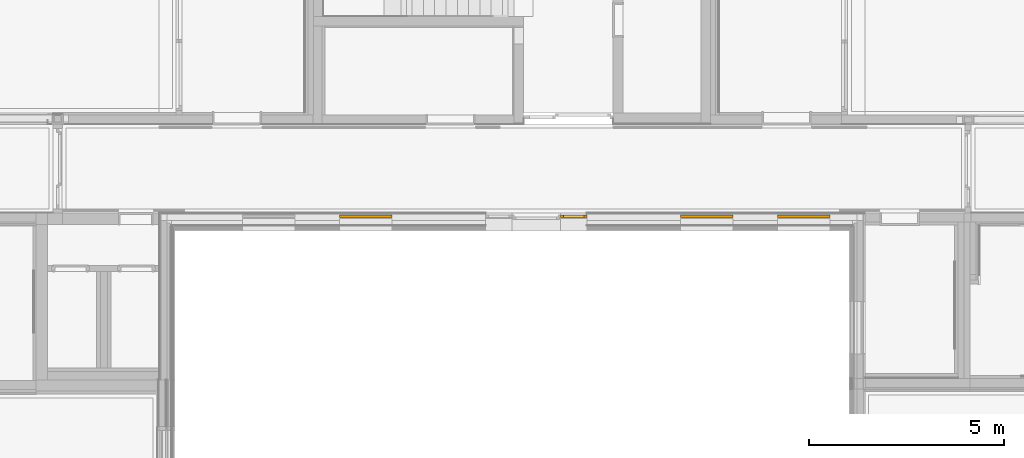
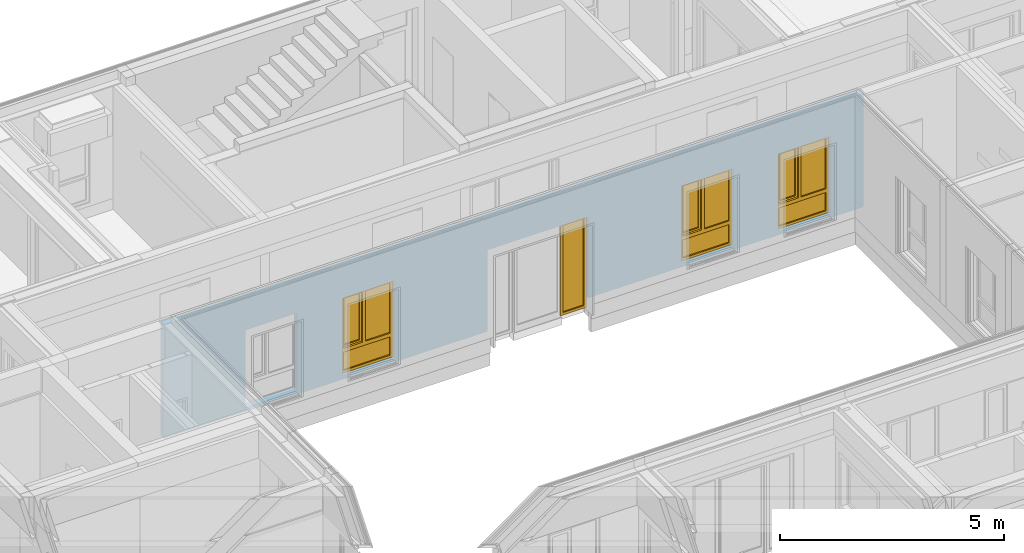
# One storey, part 106 of 207: 4 windows, 7 openings, plus 1 element that does not belong to this part.
"""IFC4 building model written with IfcOpenShell, lengths in metres."""

from ifc_helpers import new_model, entity, si_unit, converted_unit, derived_unit, frame, frame_2d, origin, origin_with_axes, place, context, subcontext, project, spatial, polyline, rectangle, outline, extrude, closed_shell, open_shell, surface_model, source, transform, mapped, material, element, fill, save


model = new_model("IFC4")

# Units and contexts
model_context = context("Model", 3, precision=1e-05, world=origin())
body_context = subcontext(model_context, "Body", "Model", "MODEL_VIEW")
ifc_project = project(units=[si_unit("LENGTHUNIT", "METRE"), si_unit("AREAUNIT", "SQUARE_METRE"), si_unit("VOLUMEUNIT", "CUBIC_METRE"), si_unit("MASSUNIT", "GRAM", prefix="KILO"), converted_unit("PLANEANGLEUNIT", "DEGREE", entity("IfcPlaneAngleMeasure", 0.0174532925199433), si_unit("PLANEANGLEUNIT", "RADIAN"), dimensions=[0, 0, 0, 0, 0, 0, 0]), derived_unit("THERMALTRANSMITTANCEUNIT", [(si_unit("POWERUNIT", "WATT"), 1), (si_unit("THERMODYNAMICTEMPERATUREUNIT", "KELVIN"), -1), (si_unit("LENGTHUNIT", "METRE"), -2)]), derived_unit("VOLUMETRICFLOWRATEUNIT", [(si_unit("LENGTHUNIT", "METRE"), 3), (converted_unit("TIMEUNIT", "hour", entity("IfcTimeMeasure", 3600.0), si_unit("TIMEUNIT", "SECOND"), dimensions=[0, 0, 1, 0, 0, 0, 0]), -1), (si_unit("LENGTHUNIT", "METRE"), -1)])], contexts=[model_context])

# Site, building, storey
site_placement = place(None, origin())
site = spatial("IfcSite", under=ifc_project, at=site_placement, Name="Psychiatrie Neubau Wunstorf", CompositionType="ELEMENT")
building_placement = place(site_placement, origin())
building = spatial("IfcBuilding", under=site, at=building_placement, Name="Neubau H2 Stationsgebäude", CompositionType="ELEMENT")
storey_placement = place(building_placement, frame((0.0, 0.0, -0.2)))
storey = spatial("IfcBuildingStorey", under=building, at=storey_placement, Name="H2 Ebene 0", CompositionType="ELEMENT", Elevation=-0.2)

# Wall, openings, windows
ifc_material = material(Name="WA-HD")
wall_placement = place(storey_placement, frame((62.0250000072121, 20.5499980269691, 0.5), z_axis=(0.0, 0.0, 1.0), x_axis=(-1.0, 8.06200289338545e-16, 0.0)))
wall = element("IfcWall", 1, at=wall_placement, inside=storey, material=ifc_material, context=body_context, shape_type="SweptSolid", body=[
    extrude(rectangle(XDim=18.0500000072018, YDim=0.16, at=frame_2d((9.02500000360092, 0.08), x_axis=(1.0, 0.0))), origin_with_axes(), (0.0, 0.0, 1.0), 3.1),
])
opening_1_placement = place(wall_placement, frame((7.77738818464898, 0.159999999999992, -0.3), z_axis=(0.0, -1.0, 0.0), x_axis=(0.0, 0.0, 1.0)))
opening_1 = element("IfcOpeningElement", 2, at=opening_1_placement, cuts=wall, Name="Fensteröffnung", ObjectType="Opening", context=body_context, shape_type="SweptSolid", body=[
    extrude(outline(polyline([(2.52, 0.675), (2.52, 0.0), (0.0, 0.0), (0.0, 0.675), (2.52, 0.675)])), origin_with_axes(), (0.0, 0.0, 1.0), 0.159999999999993),
])
opening_2_placement = place(wall_placement, frame((2.202388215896, 0.159999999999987, 0.1), z_axis=(0.0, -1.0, 0.0), x_axis=(0.0, 0.0, 1.0)))
opening_2 = element("IfcOpeningElement", 3, at=opening_2_placement, cuts=wall, Name="Fensteröffnung", ObjectType="Opening", context=body_context, shape_type="SweptSolid", body=[
    extrude(outline(polyline([(2.12, 1.35), (2.12, 0.0), (0.0, 0.0), (0.0, 1.35), (2.12, 1.35)])), origin_with_axes(), (0.0, 0.0, 1.0), 0.159999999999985),
])
opening_3_placement = place(wall_placement, frame((4.702388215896, 0.159999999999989, 0.1), z_axis=(0.0, -1.0, 0.0), x_axis=(0.0, 0.0, 1.0)))
opening_3 = element("IfcOpeningElement", 4, at=opening_3_placement, cuts=wall, Name="Fensteröffnung", ObjectType="Opening", context=body_context, shape_type="SweptSolid", body=[
    extrude(outline(polyline([(2.12, 1.35), (2.12, 0.0), (0.0, 0.0), (0.0, 1.35), (2.12, 1.35)])), origin_with_axes(), (0.0, 0.0, 1.0), 0.159999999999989),
])
opening_4_placement = place(wall_placement, frame((13.452388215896, 0.159999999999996, 0.1), z_axis=(0.0, -1.0, 0.0), x_axis=(0.0, 0.0, 1.0)))
opening_4 = element("IfcOpeningElement", 5, at=opening_4_placement, cuts=wall, Name="Fensteröffnung", ObjectType="Opening", context=body_context, shape_type="SweptSolid", body=[
    extrude(outline(polyline([(2.12, 1.35), (2.12, 0.0), (0.0, 0.0), (0.0, 1.35), (2.12, 1.35)])), origin_with_axes(), (0.0, 0.0, 1.0), 0.159999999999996),
])
opening_5_placement = place(wall_placement, frame((15.9523882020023, 0.159999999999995, 0.1), z_axis=(0.0, -1.0, 0.0), x_axis=(0.0, 0.0, 1.0)))
element("IfcOpeningElement", 6, at=opening_5_placement, cuts=wall, Name="Fensteröffnung", ObjectType="Opening", context=body_context, shape_type="SweptSolid", body=[
    extrude(outline(polyline([(2.12, 1.35), (2.12, 0.0), (0.0, 0.0), (0.0, 1.35), (2.12, 1.35)])), origin_with_axes(), (0.0, 0.0, 1.0), 0.16),
])
opening_6_placement = place(wall_placement, frame((9.027388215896, 0.159999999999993, -0.5), z_axis=(0.0, -1.0, 0.0), x_axis=(0.0, 0.0, 1.0)))
element("IfcOpeningElement", 7, at=opening_6_placement, cuts=wall, Name="Türöffnung", ObjectType="Opening", context=body_context, shape_type="SweptSolid", body=[
    extrude(outline(polyline([(2.72, 1.25), (2.72, 0.0), (0.0, 0.0), (0.0, 1.25), (2.72, 1.25)])), origin_with_axes(), (0.0, 0.0, 1.0), 0.159999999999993),
])
opening_7_placement = place(wall_placement, frame((9.702388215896, 0.159999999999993, -0.3), z_axis=(0.0, -1.0, 0.0), x_axis=(0.0, 0.0, 1.0)))
element("IfcOpeningElement", 8, at=opening_7_placement, cuts=wall, Name="Fensteröffnung", ObjectType="Opening", context=body_context, shape_type="SweptSolid", body=[
    extrude(outline(polyline([(2.52, 0.675), (2.52, 0.0), (0.0, 0.0), (0.0, 0.675), (2.52, 0.675)])), origin_with_axes(), (0.0, 0.0, 1.0), 0.159999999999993),
])
shared_shape_1 = source(origin_with_axes(), body_context, "Body", "SurfaceModel", [
    surface_model("IfcShellBasedSurfaceModel", [(0.675, 0.0, 2.52), (0.675, 0.0, 0.0), (0.605, 0.0, 0.0), (0.605, 0.0, 2.52), (0.675, 0.07, 0.0), (0.675, 0.07, 2.52), (0.605, 0.07, 2.52), (0.605, 0.07, 0.0)], [closed_shell([[[0, 1, 2, 3]], [[4, 5, 6, 7]], [[1, 0, 5, 4]], [[2, 1, 4, 7]], [[3, 2, 7, 6]], [[0, 3, 6, 5]]], orient=[[False], [False], [False], [False], [False], [False]])]),
    surface_model("IfcShellBasedSurfaceModel", [(0.07, 0.0, 2.52), (0.07, 0.0, 0.0), (0.0, 0.0, 0.0), (0.0, 0.0, 2.52), (0.07, 0.07, 0.0), (0.07, 0.07, 2.52), (0.0, 0.07, 2.52), (0.0, 0.07, 0.0)], [closed_shell([[[0, 1, 2, 3]], [[4, 5, 6, 7]], [[1, 0, 5, 4]], [[2, 1, 4, 7]], [[3, 2, 7, 6]], [[0, 3, 6, 5]]], orient=[[False], [False], [False], [False], [False], [False]])]),
    surface_model("IfcShellBasedSurfaceModel", [(0.605, 0.0, 0.07), (0.605, 0.0, 0.0), (0.07, 0.0, 0.0), (0.07, 0.0, 0.07), (0.605, 0.07, 0.0), (0.605, 0.07, 0.07), (0.07, 0.07, 0.07), (0.07, 0.07, 0.0)], [closed_shell([[[0, 1, 2, 3]], [[4, 5, 6, 7]], [[1, 0, 5, 4]], [[2, 1, 4, 7]], [[3, 2, 7, 6]], [[0, 3, 6, 5]]], orient=[[False], [False], [False], [False], [False], [False]])]),
    surface_model("IfcShellBasedSurfaceModel", [(0.605, 0.0, 2.52), (0.605, 0.0, 2.45), (0.07, 0.0, 2.45), (0.07, 0.0, 2.52), (0.605, 0.07, 2.45), (0.605, 0.07, 2.52), (0.07, 0.07, 2.52), (0.07, 0.07, 2.45)], [closed_shell([[[0, 1, 2, 3]], [[4, 5, 6, 7]], [[1, 0, 5, 4]], [[2, 1, 4, 7]], [[3, 2, 7, 6]], [[0, 3, 6, 5]]], orient=[[False], [False], [False], [False], [False], [False]])]),
    surface_model("IfcShellBasedSurfaceModel", [(0.605, 0.035, 0.07), (0.07, 0.035, 0.07), (0.07, 0.035, 2.45), (0.605, 0.035, 2.45)], [open_shell([[[0, 1, 2, 3]]], orient=[[False]])]),
])
window_1_placement = place(opening_1_placement, frame((0.0, 0.0, 0.0759999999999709), z_axis=(1.0, 0.0, 0.0), x_axis=(0.0, 1.0, 8.06200289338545e-16)))
window_1 = element("IfcWindow", 9, at=window_1_placement, inside=storey, Name="Fenster", OverallHeight=2.52, OverallWidth=0.675, PartitioningType="USERDEFINED", PredefinedType="WINDOW", context=body_context, shape_type="MappedRepresentation", body=[
    mapped(shared_shape_1, transform((0.0, 0.0, 0.0), x_axis=(1.0, 0.0, 0.0), y_axis=(0.0, 1.0, 0.0), z_axis=(0.0, 0.0, 1.0), scale=1.0)),
])
fill(opening_1, window_1)
shared_shape_2 = source(origin_with_axes(), body_context, "Body", "SurfaceModel", [
    surface_model("IfcShellBasedSurfaceModel", [(1.35, -0.000199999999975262, 2.12), (1.35, -0.000199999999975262, 0.0), (1.28, -0.000199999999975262, 0.0), (1.28, -0.000199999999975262, 2.12), (1.35, 0.0698000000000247, 0.0), (1.35, 0.0698000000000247, 2.12), (1.28, 0.0698000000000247, 2.12), (1.28, 0.0698000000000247, 0.0)], [closed_shell([[[0, 1, 2, 3]], [[4, 5, 6, 7]], [[1, 0, 5, 4]], [[2, 1, 4, 7]], [[3, 2, 7, 6]], [[0, 3, 6, 5]]], orient=[[False], [False], [False], [False], [False], [False]])]),
    surface_model("IfcShellBasedSurfaceModel", [(0.07, -0.000199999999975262, 2.12), (0.07, -0.000199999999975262, 0.0), (0.0, -0.000199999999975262, 0.0), (0.0, -0.000199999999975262, 2.12), (0.07, 0.0698000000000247, 0.0), (0.07, 0.0698000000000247, 2.12), (0.0, 0.0698000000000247, 2.12), (0.0, 0.0698000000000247, 0.0)], [closed_shell([[[0, 1, 2, 3]], [[4, 5, 6, 7]], [[1, 0, 5, 4]], [[2, 1, 4, 7]], [[3, 2, 7, 6]], [[0, 3, 6, 5]]], orient=[[False], [False], [False], [False], [False], [False]])]),
    surface_model("IfcShellBasedSurfaceModel", [(1.28, -0.000199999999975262, 0.07), (1.28, -0.000199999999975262, 0.0), (0.07, -0.000199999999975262, 0.0), (0.07, -0.000199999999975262, 0.07), (1.28, 0.0698000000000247, 0.0), (1.28, 0.0698000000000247, 0.07), (0.07, 0.0698000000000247, 0.07), (0.07, 0.0698000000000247, 0.0)], [closed_shell([[[0, 1, 2, 3]], [[4, 5, 6, 7]], [[1, 0, 5, 4]], [[2, 1, 4, 7]], [[3, 2, 7, 6]], [[0, 3, 6, 5]]], orient=[[False], [False], [False], [False], [False], [False]])]),
    surface_model("IfcShellBasedSurfaceModel", [(1.28, -0.000199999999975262, 2.12), (1.28, -0.000199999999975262, 2.05), (0.07, -0.000199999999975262, 2.05), (0.07, -0.000199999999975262, 2.12), (1.28, 0.0698000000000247, 2.05), (1.28, 0.0698000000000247, 2.12), (0.07, 0.0698000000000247, 2.12), (0.07, 0.0698000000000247, 2.05)], [closed_shell([[[0, 1, 2, 3]], [[4, 5, 6, 7]], [[1, 0, 5, 4]], [[2, 1, 4, 7]], [[3, 2, 7, 6]], [[0, 3, 6, 5]]], orient=[[False], [False], [False], [False], [False], [False]])]),
    surface_model("IfcShellBasedSurfaceModel", [(1.28, -0.000199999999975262, 0.67), (1.28, -0.000199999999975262, 0.57), (0.07, -0.000199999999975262, 0.57), (0.07, -0.000199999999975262, 0.67), (1.28, 0.0698000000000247, 0.57), (1.28, 0.0698000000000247, 0.67), (0.07, 0.0698000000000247, 0.67), (0.07, 0.0698000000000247, 0.57)], [closed_shell([[[0, 1, 2, 3]], [[4, 5, 6, 7]], [[1, 0, 5, 4]], [[2, 1, 4, 7]], [[3, 2, 7, 6]], [[0, 3, 6, 5]]], orient=[[False], [False], [False], [False], [False], [False]])]),
    surface_model("IfcShellBasedSurfaceModel", [(1.28, 0.0348000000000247, 0.07), (0.07, 0.0348000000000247, 0.07), (0.07, 0.0348000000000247, 0.57), (1.28, 0.0348000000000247, 0.57)], [open_shell([[[0, 1, 2, 3]]], orient=[[False]])]),
    surface_model("IfcShellBasedSurfaceModel", [(0.78, -0.000199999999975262, 2.05), (0.78, -0.000199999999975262, 0.67), (0.71, -0.000199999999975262, 0.67), (0.71, -0.000199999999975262, 2.05), (0.78, 0.0698000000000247, 0.67), (0.78, 0.0698000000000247, 2.05), (0.71, 0.0698000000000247, 2.05), (0.71, 0.0698000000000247, 0.67)], [closed_shell([[[0, 1, 2, 3]], [[4, 5, 6, 7]], [[1, 0, 5, 4]], [[2, 1, 4, 7]], [[3, 2, 7, 6]], [[0, 3, 6, 5]]], orient=[[False], [False], [False], [False], [False], [False]])]),
    surface_model("IfcShellBasedSurfaceModel", [(1.3, -0.0501999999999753, 2.07), (1.3, -0.0501999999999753, 0.65), (1.23, -0.0501999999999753, 0.65), (1.23, -0.0501999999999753, 2.07), (1.3, 0.0198000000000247, 0.65), (1.3, 0.0198000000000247, 2.07), (1.23, 0.0198000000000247, 2.07), (1.23, 0.0198000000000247, 0.65)], [closed_shell([[[0, 1, 2, 3]], [[4, 5, 6, 7]], [[1, 0, 5, 4]], [[2, 1, 4, 7]], [[3, 2, 7, 6]], [[0, 3, 6, 5]]], orient=[[False], [False], [False], [False], [False], [False]])]),
    surface_model("IfcShellBasedSurfaceModel", [(0.83, -0.0501999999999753, 2.07), (0.83, -0.0501999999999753, 0.65), (0.76, -0.0501999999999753, 0.65), (0.76, -0.0501999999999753, 2.07), (0.83, 0.0198000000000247, 0.65), (0.83, 0.0198000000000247, 2.07), (0.76, 0.0198000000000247, 2.07), (0.76, 0.0198000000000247, 0.65)], [closed_shell([[[0, 1, 2, 3]], [[4, 5, 6, 7]], [[1, 0, 5, 4]], [[2, 1, 4, 7]], [[3, 2, 7, 6]], [[0, 3, 6, 5]]], orient=[[False], [False], [False], [False], [False], [False]])]),
    surface_model("IfcShellBasedSurfaceModel", [(1.23, -0.0501999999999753, 0.72), (1.23, -0.0501999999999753, 0.65), (0.83, -0.0501999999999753, 0.65), (0.83, -0.0501999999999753, 0.72), (1.23, 0.0198000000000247, 0.65), (1.23, 0.0198000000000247, 0.72), (0.83, 0.0198000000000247, 0.72), (0.83, 0.0198000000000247, 0.65)], [closed_shell([[[0, 1, 2, 3]], [[4, 5, 6, 7]], [[1, 0, 5, 4]], [[2, 1, 4, 7]], [[3, 2, 7, 6]], [[0, 3, 6, 5]]], orient=[[False], [False], [False], [False], [False], [False]])]),
    surface_model("IfcShellBasedSurfaceModel", [(1.23, -0.0501999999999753, 2.07), (1.23, -0.0501999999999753, 2.0), (0.83, -0.0501999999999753, 2.0), (0.83, -0.0501999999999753, 2.07), (1.23, 0.0198000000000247, 2.0), (1.23, 0.0198000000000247, 2.07), (0.83, 0.0198000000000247, 2.07), (0.83, 0.0198000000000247, 2.0)], [closed_shell([[[0, 1, 2, 3]], [[4, 5, 6, 7]], [[1, 0, 5, 4]], [[2, 1, 4, 7]], [[3, 2, 7, 6]], [[0, 3, 6, 5]]], orient=[[False], [False], [False], [False], [False], [False]])]),
    surface_model("IfcShellBasedSurfaceModel", [(0.71, 0.0348000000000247, 0.67), (0.07, 0.0348000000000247, 0.67), (0.07, 0.0348000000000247, 2.05), (0.71, 0.0348000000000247, 2.05)], [open_shell([[[0, 1, 2, 3]]], orient=[[False]])]),
    surface_model("IfcShellBasedSurfaceModel", [(1.23, -0.0151999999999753, 0.72), (0.83, -0.0151999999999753, 0.72), (0.83, -0.0151999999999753, 2.0), (1.23, -0.0151999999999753, 2.0)], [open_shell([[[0, 1, 2, 3]]], orient=[[False]])]),
])
window_2_placement = place(opening_2_placement, frame((0.0, 1.35, 0.146), z_axis=(1.0, 0.0, 0.0), x_axis=(0.0, -1.0, -8.06200289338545e-16)))
window_2 = element("IfcWindow", 10, at=window_2_placement, inside=storey, Name="Fenster", OverallHeight=2.12, OverallWidth=1.35, PartitioningType="USERDEFINED", PredefinedType="WINDOW", context=body_context, shape_type="MappedRepresentation", body=[
    mapped(shared_shape_2, transform((0.0, 0.0, 0.0), x_axis=(1.0, 0.0, 0.0), y_axis=(0.0, 1.0, 0.0), z_axis=(0.0, 0.0, 1.0), scale=1.0)),
])
fill(opening_2, window_2)
shared_shape_3 = source(origin_with_axes(), body_context, "Body", "SurfaceModel", [
    surface_model("IfcShellBasedSurfaceModel", [(1.35, -0.000199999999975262, 2.12), (1.35, -0.000199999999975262, 0.0), (1.28, -0.000199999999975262, 0.0), (1.28, -0.000199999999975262, 2.12), (1.35, 0.0698000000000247, 0.0), (1.35, 0.0698000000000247, 2.12), (1.28, 0.0698000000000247, 2.12), (1.28, 0.0698000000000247, 0.0)], [closed_shell([[[0, 1, 2, 3]], [[4, 5, 6, 7]], [[1, 0, 5, 4]], [[2, 1, 4, 7]], [[3, 2, 7, 6]], [[0, 3, 6, 5]]], orient=[[False], [False], [False], [False], [False], [False]])]),
    surface_model("IfcShellBasedSurfaceModel", [(0.07, -0.000199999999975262, 2.12), (0.07, -0.000199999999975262, 0.0), (0.0, -0.000199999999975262, 0.0), (0.0, -0.000199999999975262, 2.12), (0.07, 0.0698000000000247, 0.0), (0.07, 0.0698000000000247, 2.12), (0.0, 0.0698000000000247, 2.12), (0.0, 0.0698000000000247, 0.0)], [closed_shell([[[0, 1, 2, 3]], [[4, 5, 6, 7]], [[1, 0, 5, 4]], [[2, 1, 4, 7]], [[3, 2, 7, 6]], [[0, 3, 6, 5]]], orient=[[False], [False], [False], [False], [False], [False]])]),
    surface_model("IfcShellBasedSurfaceModel", [(1.28, -0.000199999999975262, 0.07), (1.28, -0.000199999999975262, 0.0), (0.07, -0.000199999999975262, 0.0), (0.07, -0.000199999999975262, 0.07), (1.28, 0.0698000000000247, 0.0), (1.28, 0.0698000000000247, 0.07), (0.07, 0.0698000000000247, 0.07), (0.07, 0.0698000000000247, 0.0)], [closed_shell([[[0, 1, 2, 3]], [[4, 5, 6, 7]], [[1, 0, 5, 4]], [[2, 1, 4, 7]], [[3, 2, 7, 6]], [[0, 3, 6, 5]]], orient=[[False], [False], [False], [False], [False], [False]])]),
    surface_model("IfcShellBasedSurfaceModel", [(1.28, -0.000199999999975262, 2.12), (1.28, -0.000199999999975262, 2.05), (0.07, -0.000199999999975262, 2.05), (0.07, -0.000199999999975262, 2.12), (1.28, 0.0698000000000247, 2.05), (1.28, 0.0698000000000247, 2.12), (0.07, 0.0698000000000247, 2.12), (0.07, 0.0698000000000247, 2.05)], [closed_shell([[[0, 1, 2, 3]], [[4, 5, 6, 7]], [[1, 0, 5, 4]], [[2, 1, 4, 7]], [[3, 2, 7, 6]], [[0, 3, 6, 5]]], orient=[[False], [False], [False], [False], [False], [False]])]),
    surface_model("IfcShellBasedSurfaceModel", [(1.28, -0.000199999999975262, 0.67), (1.28, -0.000199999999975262, 0.57), (0.07, -0.000199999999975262, 0.57), (0.07, -0.000199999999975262, 0.67), (1.28, 0.0698000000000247, 0.57), (1.28, 0.0698000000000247, 0.67), (0.07, 0.0698000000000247, 0.67), (0.07, 0.0698000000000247, 0.57)], [closed_shell([[[0, 1, 2, 3]], [[4, 5, 6, 7]], [[1, 0, 5, 4]], [[2, 1, 4, 7]], [[3, 2, 7, 6]], [[0, 3, 6, 5]]], orient=[[False], [False], [False], [False], [False], [False]])]),
    surface_model("IfcShellBasedSurfaceModel", [(1.28, 0.0348000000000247, 0.07), (0.07, 0.0348000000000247, 0.07), (0.07, 0.0348000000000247, 0.57), (1.28, 0.0348000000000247, 0.57)], [open_shell([[[0, 1, 2, 3]]], orient=[[False]])]),
    surface_model("IfcShellBasedSurfaceModel", [(0.78, -0.000199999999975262, 2.05), (0.78, -0.000199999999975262, 0.67), (0.71, -0.000199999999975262, 0.67), (0.71, -0.000199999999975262, 2.05), (0.78, 0.0698000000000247, 0.67), (0.78, 0.0698000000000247, 2.05), (0.71, 0.0698000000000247, 2.05), (0.71, 0.0698000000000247, 0.67)], [closed_shell([[[0, 1, 2, 3]], [[4, 5, 6, 7]], [[1, 0, 5, 4]], [[2, 1, 4, 7]], [[3, 2, 7, 6]], [[0, 3, 6, 5]]], orient=[[False], [False], [False], [False], [False], [False]])]),
    surface_model("IfcShellBasedSurfaceModel", [(1.3, -0.0501999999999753, 2.07), (1.3, -0.0501999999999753, 0.65), (1.23, -0.0501999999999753, 0.65), (1.23, -0.0501999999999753, 2.07), (1.3, 0.0198000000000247, 0.65), (1.3, 0.0198000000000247, 2.07), (1.23, 0.0198000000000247, 2.07), (1.23, 0.0198000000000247, 0.65)], [closed_shell([[[0, 1, 2, 3]], [[4, 5, 6, 7]], [[1, 0, 5, 4]], [[2, 1, 4, 7]], [[3, 2, 7, 6]], [[0, 3, 6, 5]]], orient=[[False], [False], [False], [False], [False], [False]])]),
    surface_model("IfcShellBasedSurfaceModel", [(0.83, -0.0501999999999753, 2.07), (0.83, -0.0501999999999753, 0.65), (0.76, -0.0501999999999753, 0.65), (0.76, -0.0501999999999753, 2.07), (0.83, 0.0198000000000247, 0.65), (0.83, 0.0198000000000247, 2.07), (0.76, 0.0198000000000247, 2.07), (0.76, 0.0198000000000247, 0.65)], [closed_shell([[[0, 1, 2, 3]], [[4, 5, 6, 7]], [[1, 0, 5, 4]], [[2, 1, 4, 7]], [[3, 2, 7, 6]], [[0, 3, 6, 5]]], orient=[[False], [False], [False], [False], [False], [False]])]),
    surface_model("IfcShellBasedSurfaceModel", [(1.23, -0.0501999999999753, 0.72), (1.23, -0.0501999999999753, 0.65), (0.83, -0.0501999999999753, 0.65), (0.83, -0.0501999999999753, 0.72), (1.23, 0.0198000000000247, 0.65), (1.23, 0.0198000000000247, 0.72), (0.83, 0.0198000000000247, 0.72), (0.83, 0.0198000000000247, 0.65)], [closed_shell([[[0, 1, 2, 3]], [[4, 5, 6, 7]], [[1, 0, 5, 4]], [[2, 1, 4, 7]], [[3, 2, 7, 6]], [[0, 3, 6, 5]]], orient=[[False], [False], [False], [False], [False], [False]])]),
    surface_model("IfcShellBasedSurfaceModel", [(1.23, -0.0501999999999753, 2.07), (1.23, -0.0501999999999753, 2.0), (0.83, -0.0501999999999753, 2.0), (0.83, -0.0501999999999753, 2.07), (1.23, 0.0198000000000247, 2.0), (1.23, 0.0198000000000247, 2.07), (0.83, 0.0198000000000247, 2.07), (0.83, 0.0198000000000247, 2.0)], [closed_shell([[[0, 1, 2, 3]], [[4, 5, 6, 7]], [[1, 0, 5, 4]], [[2, 1, 4, 7]], [[3, 2, 7, 6]], [[0, 3, 6, 5]]], orient=[[False], [False], [False], [False], [False], [False]])]),
    surface_model("IfcShellBasedSurfaceModel", [(0.71, 0.0348000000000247, 0.67), (0.07, 0.0348000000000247, 0.67), (0.07, 0.0348000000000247, 2.05), (0.71, 0.0348000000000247, 2.05)], [open_shell([[[0, 1, 2, 3]]], orient=[[False]])]),
    surface_model("IfcShellBasedSurfaceModel", [(1.23, -0.0151999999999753, 0.72), (0.83, -0.0151999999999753, 0.72), (0.83, -0.0151999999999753, 2.0), (1.23, -0.0151999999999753, 2.0)], [open_shell([[[0, 1, 2, 3]]], orient=[[False]])]),
])
window_3_placement = place(opening_3_placement, frame((0.0, 1.35, 0.145999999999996), z_axis=(1.0, 0.0, 0.0), x_axis=(0.0, -1.0, -8.06200289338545e-16)))
window_3 = element("IfcWindow", 11, at=window_3_placement, inside=storey, Name="Fenster", OverallHeight=2.12, OverallWidth=1.35, PartitioningType="USERDEFINED", PredefinedType="WINDOW", context=body_context, shape_type="MappedRepresentation", body=[
    mapped(shared_shape_3, transform((0.0, 0.0, 0.0), x_axis=(1.0, 0.0, 0.0), y_axis=(0.0, 1.0, 0.0), z_axis=(0.0, 0.0, 1.0), scale=1.0)),
])
fill(opening_3, window_3)
shared_shape_4 = source(origin_with_axes(), body_context, "Body", "SurfaceModel", [
    surface_model("IfcShellBasedSurfaceModel", [(1.35, -0.000199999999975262, 2.12), (1.35, -0.000199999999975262, 0.0), (1.28, -0.000199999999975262, 0.0), (1.28, -0.000199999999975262, 2.12), (1.35, 0.0698000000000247, 0.0), (1.35, 0.0698000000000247, 2.12), (1.28, 0.0698000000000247, 2.12), (1.28, 0.0698000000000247, 0.0)], [closed_shell([[[0, 1, 2, 3]], [[4, 5, 6, 7]], [[1, 0, 5, 4]], [[2, 1, 4, 7]], [[3, 2, 7, 6]], [[0, 3, 6, 5]]], orient=[[False], [False], [False], [False], [False], [False]])]),
    surface_model("IfcShellBasedSurfaceModel", [(0.07, -0.000199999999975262, 2.12), (0.07, -0.000199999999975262, 0.0), (0.0, -0.000199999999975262, 0.0), (0.0, -0.000199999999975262, 2.12), (0.07, 0.0698000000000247, 0.0), (0.07, 0.0698000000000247, 2.12), (0.0, 0.0698000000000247, 2.12), (0.0, 0.0698000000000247, 0.0)], [closed_shell([[[0, 1, 2, 3]], [[4, 5, 6, 7]], [[1, 0, 5, 4]], [[2, 1, 4, 7]], [[3, 2, 7, 6]], [[0, 3, 6, 5]]], orient=[[False], [False], [False], [False], [False], [False]])]),
    surface_model("IfcShellBasedSurfaceModel", [(1.28, -0.000199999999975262, 0.07), (1.28, -0.000199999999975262, 0.0), (0.07, -0.000199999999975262, 0.0), (0.07, -0.000199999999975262, 0.07), (1.28, 0.0698000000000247, 0.0), (1.28, 0.0698000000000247, 0.07), (0.07, 0.0698000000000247, 0.07), (0.07, 0.0698000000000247, 0.0)], [closed_shell([[[0, 1, 2, 3]], [[4, 5, 6, 7]], [[1, 0, 5, 4]], [[2, 1, 4, 7]], [[3, 2, 7, 6]], [[0, 3, 6, 5]]], orient=[[False], [False], [False], [False], [False], [False]])]),
    surface_model("IfcShellBasedSurfaceModel", [(1.28, -0.000199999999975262, 2.12), (1.28, -0.000199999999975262, 2.05), (0.07, -0.000199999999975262, 2.05), (0.07, -0.000199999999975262, 2.12), (1.28, 0.0698000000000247, 2.05), (1.28, 0.0698000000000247, 2.12), (0.07, 0.0698000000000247, 2.12), (0.07, 0.0698000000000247, 2.05)], [closed_shell([[[0, 1, 2, 3]], [[4, 5, 6, 7]], [[1, 0, 5, 4]], [[2, 1, 4, 7]], [[3, 2, 7, 6]], [[0, 3, 6, 5]]], orient=[[False], [False], [False], [False], [False], [False]])]),
    surface_model("IfcShellBasedSurfaceModel", [(1.28, -0.000199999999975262, 0.67), (1.28, -0.000199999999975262, 0.57), (0.07, -0.000199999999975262, 0.57), (0.07, -0.000199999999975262, 0.67), (1.28, 0.0698000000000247, 0.57), (1.28, 0.0698000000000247, 0.67), (0.07, 0.0698000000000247, 0.67), (0.07, 0.0698000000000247, 0.57)], [closed_shell([[[0, 1, 2, 3]], [[4, 5, 6, 7]], [[1, 0, 5, 4]], [[2, 1, 4, 7]], [[3, 2, 7, 6]], [[0, 3, 6, 5]]], orient=[[False], [False], [False], [False], [False], [False]])]),
    surface_model("IfcShellBasedSurfaceModel", [(1.28, 0.0348000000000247, 0.07), (0.07, 0.0348000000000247, 0.07), (0.07, 0.0348000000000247, 0.57), (1.28, 0.0348000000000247, 0.57)], [open_shell([[[0, 1, 2, 3]]], orient=[[False]])]),
    surface_model("IfcShellBasedSurfaceModel", [(0.78, -0.000199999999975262, 2.05), (0.78, -0.000199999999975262, 0.67), (0.71, -0.000199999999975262, 0.67), (0.71, -0.000199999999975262, 2.05), (0.78, 0.0698000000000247, 0.67), (0.78, 0.0698000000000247, 2.05), (0.71, 0.0698000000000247, 2.05), (0.71, 0.0698000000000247, 0.67)], [closed_shell([[[0, 1, 2, 3]], [[4, 5, 6, 7]], [[1, 0, 5, 4]], [[2, 1, 4, 7]], [[3, 2, 7, 6]], [[0, 3, 6, 5]]], orient=[[False], [False], [False], [False], [False], [False]])]),
    surface_model("IfcShellBasedSurfaceModel", [(1.3, -0.0501999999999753, 2.07), (1.3, -0.0501999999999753, 0.65), (1.23, -0.0501999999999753, 0.65), (1.23, -0.0501999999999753, 2.07), (1.3, 0.0198000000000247, 0.65), (1.3, 0.0198000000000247, 2.07), (1.23, 0.0198000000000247, 2.07), (1.23, 0.0198000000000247, 0.65)], [closed_shell([[[0, 1, 2, 3]], [[4, 5, 6, 7]], [[1, 0, 5, 4]], [[2, 1, 4, 7]], [[3, 2, 7, 6]], [[0, 3, 6, 5]]], orient=[[False], [False], [False], [False], [False], [False]])]),
    surface_model("IfcShellBasedSurfaceModel", [(0.83, -0.0501999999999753, 2.07), (0.83, -0.0501999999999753, 0.65), (0.76, -0.0501999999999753, 0.65), (0.76, -0.0501999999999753, 2.07), (0.83, 0.0198000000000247, 0.65), (0.83, 0.0198000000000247, 2.07), (0.76, 0.0198000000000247, 2.07), (0.76, 0.0198000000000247, 0.65)], [closed_shell([[[0, 1, 2, 3]], [[4, 5, 6, 7]], [[1, 0, 5, 4]], [[2, 1, 4, 7]], [[3, 2, 7, 6]], [[0, 3, 6, 5]]], orient=[[False], [False], [False], [False], [False], [False]])]),
    surface_model("IfcShellBasedSurfaceModel", [(1.23, -0.0501999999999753, 0.72), (1.23, -0.0501999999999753, 0.65), (0.83, -0.0501999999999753, 0.65), (0.83, -0.0501999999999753, 0.72), (1.23, 0.0198000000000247, 0.65), (1.23, 0.0198000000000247, 0.72), (0.83, 0.0198000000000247, 0.72), (0.83, 0.0198000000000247, 0.65)], [closed_shell([[[0, 1, 2, 3]], [[4, 5, 6, 7]], [[1, 0, 5, 4]], [[2, 1, 4, 7]], [[3, 2, 7, 6]], [[0, 3, 6, 5]]], orient=[[False], [False], [False], [False], [False], [False]])]),
    surface_model("IfcShellBasedSurfaceModel", [(1.23, -0.0501999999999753, 2.07), (1.23, -0.0501999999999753, 2.0), (0.83, -0.0501999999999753, 2.0), (0.83, -0.0501999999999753, 2.07), (1.23, 0.0198000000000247, 2.0), (1.23, 0.0198000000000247, 2.07), (0.83, 0.0198000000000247, 2.07), (0.83, 0.0198000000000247, 2.0)], [closed_shell([[[0, 1, 2, 3]], [[4, 5, 6, 7]], [[1, 0, 5, 4]], [[2, 1, 4, 7]], [[3, 2, 7, 6]], [[0, 3, 6, 5]]], orient=[[False], [False], [False], [False], [False], [False]])]),
    surface_model("IfcShellBasedSurfaceModel", [(0.71, 0.0348000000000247, 0.67), (0.07, 0.0348000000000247, 0.67), (0.07, 0.0348000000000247, 2.05), (0.71, 0.0348000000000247, 2.05)], [open_shell([[[0, 1, 2, 3]]], orient=[[False]])]),
    surface_model("IfcShellBasedSurfaceModel", [(1.23, -0.0151999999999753, 0.72), (0.83, -0.0151999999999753, 0.72), (0.83, -0.0151999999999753, 2.0), (1.23, -0.0151999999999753, 2.0)], [open_shell([[[0, 1, 2, 3]]], orient=[[False]])]),
])
window_4_placement = place(opening_4_placement, frame((0.0, 1.35, 0.145999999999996), z_axis=(1.0, 0.0, 0.0), x_axis=(0.0, -1.0, -8.06200289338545e-16)))
window_4 = element("IfcWindow", 12, at=window_4_placement, inside=storey, Name="Fenster", OverallHeight=2.12, OverallWidth=1.35, PartitioningType="USERDEFINED", PredefinedType="WINDOW", context=body_context, shape_type="MappedRepresentation", body=[
    mapped(shared_shape_4, transform((0.0, 0.0, 0.0), x_axis=(1.0, 0.0, 0.0), y_axis=(0.0, 1.0, 0.0), z_axis=(0.0, 0.0, 1.0), scale=1.0)),
])
fill(opening_4, window_4)

save(model, "model.ifc")
